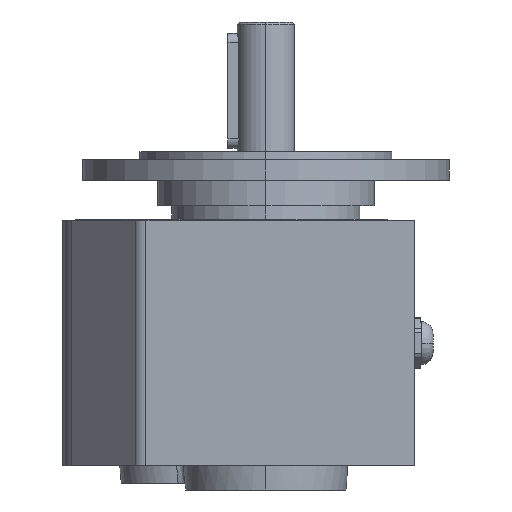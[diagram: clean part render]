
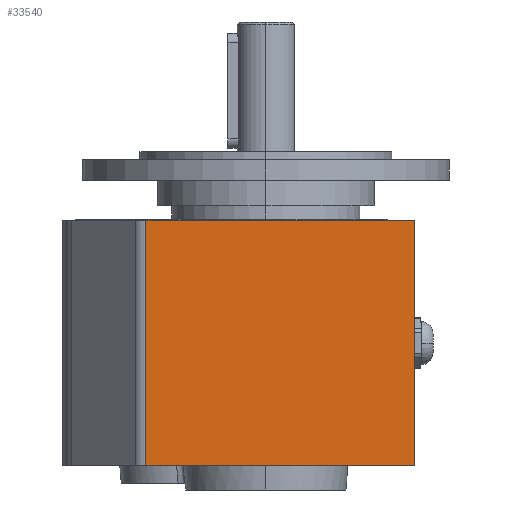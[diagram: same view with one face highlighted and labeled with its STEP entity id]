
A CAD part, left-side view. The second image highlights one B-rep face of the part: STEP entity #33540.
In plain terms, the highlighted planar face has unit normal (-1, 0, 0) as drawn and (0, 1, -0.026) by its records, which use the part's own axes.
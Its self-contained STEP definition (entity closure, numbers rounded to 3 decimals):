
#33150=CARTESIAN_POINT('',(-139.,749.088,
-225.712));
#33160=DIRECTION('',(0.,1.,
-0.026));
#33170=DIRECTION('',(1.,0.,0.));
#33180=AXIS2_PLACEMENT_3D('',#33150,#33160,#33170);
#33190=PLANE('',#33180);
#33200=CARTESIAN_POINT('',(-27.25,752.693,
-88.057));
#33210=DIRECTION('',(1.,0.,0.));
#33220=VECTOR('',#33210,1.);
#33230=LINE('',#33200,#33220);
#33240=CARTESIAN_POINT('',(-117.5,752.693,
-88.057));
#33250=VERTEX_POINT('',#33240);
#33260=CARTESIAN_POINT('',(-10.5,752.693,
-88.057));
#33270=VERTEX_POINT('',#33260);
#33280=EDGE_CURVE('',#33250,#33270,#33230,.T.);
#33290=ORIENTED_EDGE('',*,*,#33280,.T.);
#33300=CARTESIAN_POINT('',(-117.5,751.36,
-138.938));
#33310=DIRECTION('',(0.,0.026,
1.));
#33320=VECTOR('',#33310,1.);
#33330=LINE('',#33300,#33320);
#33340=CARTESIAN_POINT('',(-117.5,749.625,
-205.219));
#33350=VERTEX_POINT('',#33340);
#33360=EDGE_CURVE('',#33350,#33250,#33330,.T.);
#33370=ORIENTED_EDGE('',*,*,#33360,.T.);
#33380=CARTESIAN_POINT('',(-132.5,749.625,
-205.219));
#33390=DIRECTION('',(-1.,0.,0.));
#33400=VECTOR('',#33390,1.);
#33410=LINE('',#33380,#33400);
#33420=CARTESIAN_POINT('',(-10.5,749.625,
-205.219));
#33430=VERTEX_POINT('',#33420);
#33440=EDGE_CURVE('',#33430,#33350,#33410,.T.);
#33450=ORIENTED_EDGE('',*,*,#33440,.T.);
#33460=CARTESIAN_POINT('',(-10.5,751.36,
-138.938));
#33470=DIRECTION('',(0.,-0.026,
-1.));
#33480=VECTOR('',#33470,1.);
#33490=LINE('',#33460,#33480);
#33500=EDGE_CURVE('',#33270,#33430,#33490,.T.);
#33510=ORIENTED_EDGE('',*,*,#33500,.T.);
#33520=EDGE_LOOP('',(#33510,#33450,#33370,#33290));
#33530=FACE_OUTER_BOUND('',#33520,.T.);
#33540=ADVANCED_FACE('',(#33530),#33190,.T.);
